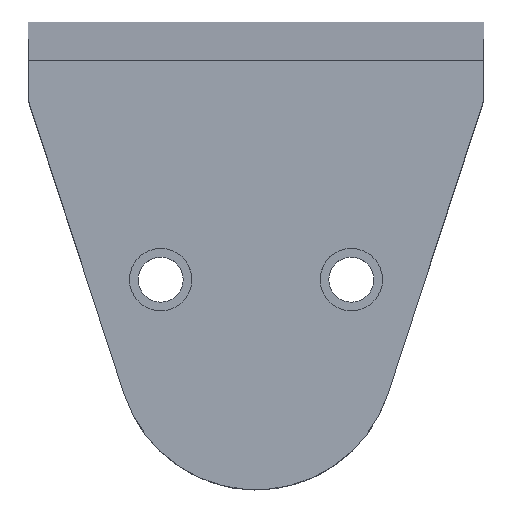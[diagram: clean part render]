
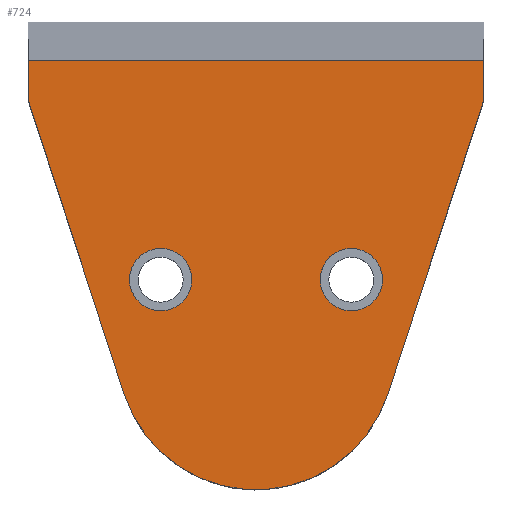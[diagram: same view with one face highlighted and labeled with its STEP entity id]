
A CAD part, top view. The second image highlights one B-rep face of the part: STEP entity #724.
In plain terms, the highlighted planar face has unit normal (0, 0, 1).
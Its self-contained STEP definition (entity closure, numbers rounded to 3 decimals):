
#8 = EDGE_LOOP ( 'NONE', ( #557, #532 ) ) ;
#17 = DIRECTION ( 'NONE',  ( 0.31, 0.951, 0. ) ) ;
#41 = EDGE_CURVE ( 'NONE', #71, #375, #213, .T. ) ;
#42 = AXIS2_PLACEMENT_3D ( 'NONE', #675, #589, #325 ) ;
#47 = CARTESIAN_POINT ( 'NONE',  ( 5.5, -22.401, 7. ) ) ;
#67 = FACE_BOUND ( 'NONE', #769, .T. ) ;
#71 = VERTEX_POINT ( 'NONE', #580 ) ;
#72 = DIRECTION ( 'NONE',  ( 1., 0., 0. ) ) ;
#76 = EDGE_CURVE ( 'NONE', #575, #679, #247, .T. ) ;
#99 = CIRCLE ( 'NONE', #42, 1.8 ) ;
#100 = CIRCLE ( 'NONE', #751, 1.8 ) ;
#120 = VERTEX_POINT ( 'NONE', #318 ) ;
#169 = DIRECTION ( 'NONE',  ( 1., 0., 0. ) ) ;
#187 = EDGE_CURVE ( 'NONE', #679, #120, #520, .T. ) ;
#198 = CARTESIAN_POINT ( 'NONE',  ( 13.152, -12.026, 7. ) ) ;
#203 = DIRECTION ( 'NONE',  ( 0., 0., 1. ) ) ;
#213 = CIRCLE ( 'NONE', #827, 1.8 ) ;
#214 = CARTESIAN_POINT ( 'NONE',  ( -3.7, -22.401, 7. ) ) ;
#217 = FACE_OUTER_BOUND ( 'NONE', #491, .T. ) ;
#247 = LINE ( 'NONE', #453, #845 ) ;
#253 = AXIS2_PLACEMENT_3D ( 'NONE', #590, #399, #592 ) ;
#261 = EDGE_CURVE ( 'NONE', #375, #71, #99, .T. ) ;
#271 = DIRECTION ( 'NONE',  ( 0., 0., 1. ) ) ;
#277 = VERTEX_POINT ( 'NONE', #455 ) ;
#282 = CARTESIAN_POINT ( 'NONE',  ( -13.152, -9.776, 7. ) ) ;
#283 = EDGE_CURVE ( 'NONE', #696, #334, #586, .T. ) ;
#297 = CARTESIAN_POINT ( 'NONE',  ( -13.152, -12.026, 7. ) ) ;
#304 = ORIENTED_EDGE ( 'NONE', *, *, #789, .T. ) ;
#318 = CARTESIAN_POINT ( 'NONE',  ( -13.152, -12.026, 7. ) ) ;
#325 = DIRECTION ( 'NONE',  ( 1., 0., 0. ) ) ;
#334 = VERTEX_POINT ( 'NONE', #349 ) ;
#335 = PLANE ( 'NONE',  #864 ) ;
#349 = CARTESIAN_POINT ( 'NONE',  ( 7.3, -22.401, 7. ) ) ;
#364 = ORIENTED_EDGE ( 'NONE', *, *, #598, .T. ) ;
#365 = DIRECTION ( 'NONE',  ( -1., 0., 0. ) ) ;
#375 = VERTEX_POINT ( 'NONE', #214 ) ;
#376 = LINE ( 'NONE', #650, #812 ) ;
#389 = DIRECTION ( 'NONE',  ( 0., 0., 1. ) ) ;
#393 = DIRECTION ( 'NONE',  ( 0., -1., 0. ) ) ;
#399 = DIRECTION ( 'NONE',  ( 0., 0., 1. ) ) ;
#418 = FACE_BOUND ( 'NONE', #8, .T. ) ;
#420 = ORIENTED_EDGE ( 'NONE', *, *, #261, .F. ) ;
#453 = CARTESIAN_POINT ( 'NONE',  ( 13.152, -9.776, 7. ) ) ;
#455 = CARTESIAN_POINT ( 'NONE',  ( -7.605, -29.009, 7. ) ) ;
#465 = ORIENTED_EDGE ( 'NONE', *, *, #187, .T. ) ;
#469 = VECTOR ( 'NONE', #393, 1000. ) ;
#473 = DIRECTION ( 'NONE',  ( 1., 0., 0. ) ) ;
#491 = EDGE_LOOP ( 'NONE', ( #863, #803, #465, #806, #364, #304 ) ) ;
#502 = CARTESIAN_POINT ( 'NONE',  ( 13.152, -9.776, 7. ) ) ;
#507 = LINE ( 'NONE', #777, #571 ) ;
#520 = LINE ( 'NONE', #732, #469 ) ;
#532 = ORIENTED_EDGE ( 'NONE', *, *, #283, .F. ) ;
#557 = ORIENTED_EDGE ( 'NONE', *, *, #746, .F. ) ;
#571 = VECTOR ( 'NONE', #703, 1000. ) ;
#575 = VERTEX_POINT ( 'NONE', #502 ) ;
#580 = CARTESIAN_POINT ( 'NONE',  ( -7.3, -22.401, 7. ) ) ;
#586 = CIRCLE ( 'NONE', #717, 1.8 ) ;
#589 = DIRECTION ( 'NONE',  ( 0., 0., 1. ) ) ;
#590 = CARTESIAN_POINT ( 'NONE',  ( 0., -26.526, 7. ) ) ;
#592 = DIRECTION ( 'NONE',  ( 1., 0., 0. ) ) ;
#598 = EDGE_CURVE ( 'NONE', #277, #655, #629, .T. ) ;
#609 = CARTESIAN_POINT ( 'NONE',  ( 7.605, -29.009, 7. ) ) ;
#611 = VECTOR ( 'NONE', #699, 1000. ) ;
#622 = CARTESIAN_POINT ( 'NONE',  ( -5.5, -22.401, 7. ) ) ;
#629 = CIRCLE ( 'NONE', #253, 8. ) ;
#631 = ORIENTED_EDGE ( 'NONE', *, *, #41, .F. ) ;
#650 = CARTESIAN_POINT ( 'NONE',  ( 7.605, -29.009, 7. ) ) ;
#655 = VERTEX_POINT ( 'NONE', #609 ) ;
#664 = DIRECTION ( 'NONE',  ( 1., 0., 0. ) ) ;
#675 = CARTESIAN_POINT ( 'NONE',  ( -5.5, -22.401, 7. ) ) ;
#679 = VERTEX_POINT ( 'NONE', #282 ) ;
#691 = CARTESIAN_POINT ( 'NONE',  ( 0., -26.526, 7. ) ) ;
#693 = VERTEX_POINT ( 'NONE', #198 ) ;
#696 = VERTEX_POINT ( 'NONE', #816 ) ;
#699 = DIRECTION ( 'NONE',  ( 0.31, -0.951, 0. ) ) ;
#703 = DIRECTION ( 'NONE',  ( 0., 1., 0. ) ) ;
#717 = AXIS2_PLACEMENT_3D ( 'NONE', #47, #389, #664 ) ;
#724 = ADVANCED_FACE ( 'NONE', ( #67, #217, #418 ), #335, .T. ) ;
#732 = CARTESIAN_POINT ( 'NONE',  ( -13.152, -9.776, 7. ) ) ;
#746 = EDGE_CURVE ( 'NONE', #334, #696, #100, .T. ) ;
#751 = AXIS2_PLACEMENT_3D ( 'NONE', #884, #271, #473 ) ;
#769 = EDGE_LOOP ( 'NONE', ( #420, #631 ) ) ;
#777 = CARTESIAN_POINT ( 'NONE',  ( 13.152, -12.026, 7. ) ) ;
#780 = DIRECTION ( 'NONE',  ( 0., 0., 1. ) ) ;
#789 = EDGE_CURVE ( 'NONE', #655, #693, #376, .T. ) ;
#797 = EDGE_CURVE ( 'NONE', #120, #277, #833, .T. ) ;
#803 = ORIENTED_EDGE ( 'NONE', *, *, #76, .T. ) ;
#806 = ORIENTED_EDGE ( 'NONE', *, *, #797, .T. ) ;
#812 = VECTOR ( 'NONE', #17, 1000. ) ;
#816 = CARTESIAN_POINT ( 'NONE',  ( 3.7, -22.401, 7. ) ) ;
#827 = AXIS2_PLACEMENT_3D ( 'NONE', #622, #780, #169 ) ;
#833 = LINE ( 'NONE', #297, #611 ) ;
#837 = EDGE_CURVE ( 'NONE', #693, #575, #507, .T. ) ;
#845 = VECTOR ( 'NONE', #365, 1000. ) ;
#863 = ORIENTED_EDGE ( 'NONE', *, *, #837, .T. ) ;
#864 = AXIS2_PLACEMENT_3D ( 'NONE', #691, #203, #72 ) ;
#884 = CARTESIAN_POINT ( 'NONE',  ( 5.5, -22.401, 7. ) ) ;
